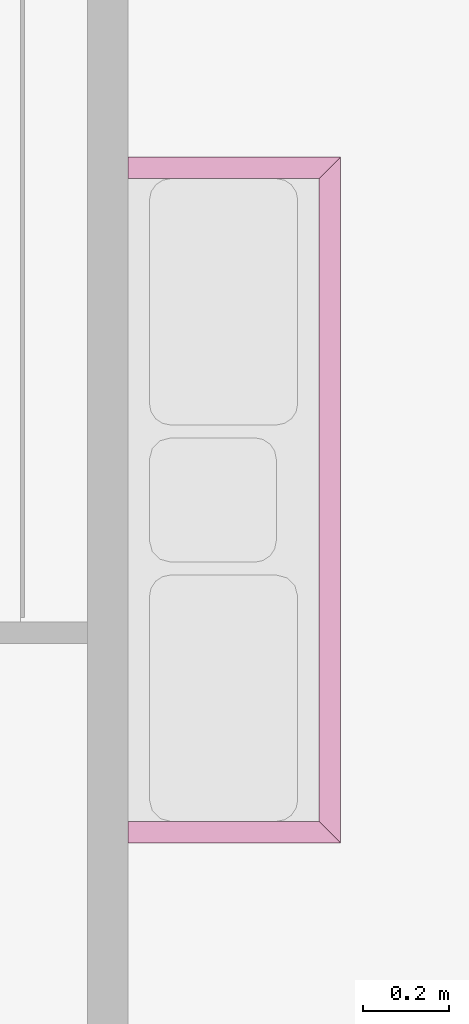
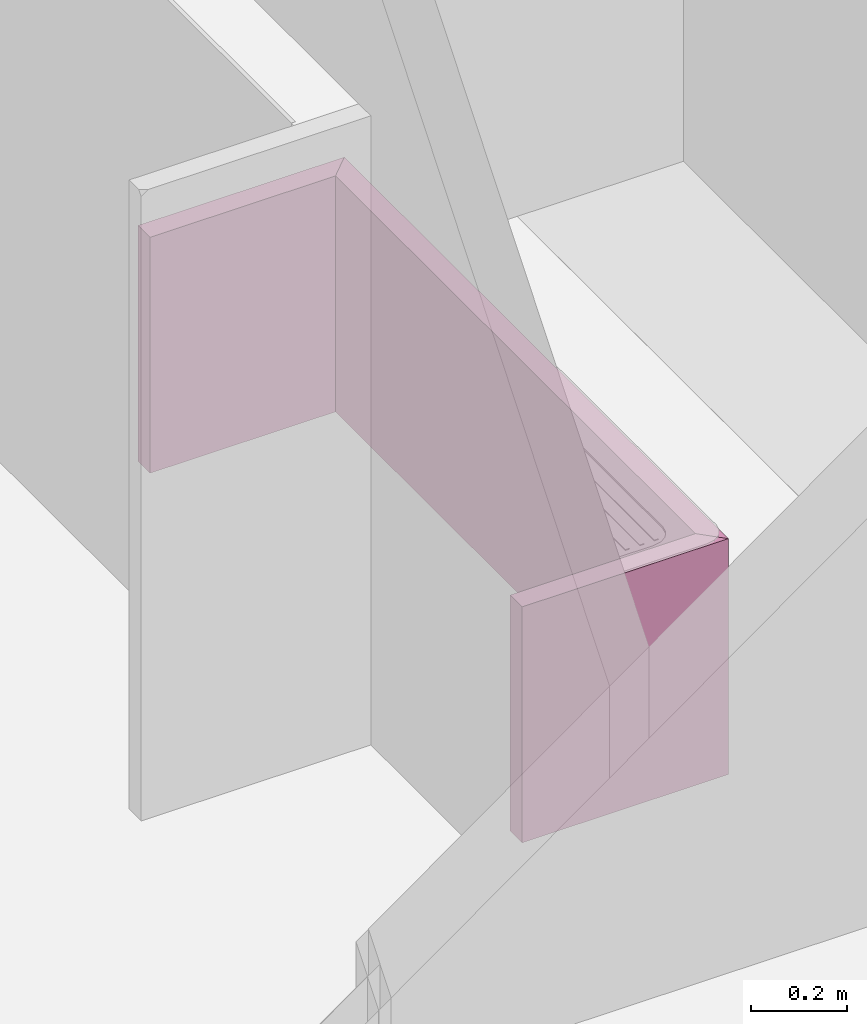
# One storey, part 8 of 14: 3 furnishings.
"""IFC2X3 building model written with IfcOpenShell, lengths in millimetres."""

from ifc_helpers import new_model, entity, si_unit, converted_unit, direction, frame, origin_with_axes, place, context, project, spatial, polyline, outline, extrude, material, type_object, element, save


model = new_model("IFC2X3")

# Units and contexts
model_context = context("Model", 3, precision=1e-05, world=origin_with_axes(), true_north=direction((0.0, 1.0)))
ifc_project = project(units=[si_unit("LENGTHUNIT", "METRE", prefix="MILLI"), si_unit("AREAUNIT", "SQUARE_METRE"), si_unit("VOLUMEUNIT", "CUBIC_METRE"), converted_unit("PLANEANGLEUNIT", "DEGREE", entity("IfcPlaneAngleMeasure", 0.017453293), si_unit("PLANEANGLEUNIT", "RADIAN"), dimensions=[0, 0, 0, 0, 0, 0, 0]), si_unit("SOLIDANGLEUNIT", "STERADIAN"), si_unit("MASSUNIT", "GRAM"), si_unit("TIMEUNIT", "SECOND"), si_unit("THERMODYNAMICTEMPERATUREUNIT", "DEGREE_CELSIUS"), si_unit("LUMINOUSINTENSITYUNIT", "LUMEN")], contexts=[model_context])

# Site, building, storey
site_placement = place(None, origin_with_axes())
site = spatial("IfcSite", under=ifc_project, at=site_placement, Name="\x83T\x83C\x83g", CompositionType="ELEMENT")
building_placement = place(site_placement, origin_with_axes())
building = spatial("IfcBuilding", under=site, at=building_placement, Name="Daitec-Sample 201208", CompositionType="ELEMENT")
storey_placement = place(building_placement, frame((0.0, 0.0, 4000.0), z_axis=(0.0, 0.0, 1.0), x_axis=(1.0, 0.0, 0.0)))
storey = spatial("IfcBuildingStorey", under=building, at=storey_placement, Name="2F", CompositionType="ELEMENT", Elevation=4000.0)

# Furnishings
ifc_material_1 = material()
furniture_type_1 = type_object("IfcFurnitureType", AssemblyPlace="NOTDEFINED")
furnishing_1_placement = place(storey_placement, frame((23667.276, 21024.447, 0.0), z_axis=(0.0, 0.0, 1.0), x_axis=(0.0, 1.0, 0.0)))
element("IfcFurnishingElement", 1, at=furnishing_1_placement, inside=storey, type_object=furniture_type_1, material=ifc_material_1, Name="W4", context=model_context, shape_type="SweptSolid", body=[
    extrude(outline(polyline([(0.0, 0.0), (1600.0, 0.0), (1550.0, 50.0), (50.0, 50.0), (0.0, 0.0)])), origin_with_axes(), (0.0, 0.0, 1.0), 600.0),
])
furnishing_2_placement = place(storey_placement, frame((23667.276, 21024.447, 0.0), z_axis=(0.0, 0.0, 1.0), x_axis=(-1.0, 0.0, 0.0)))
element("IfcFurnishingElement", 2, at=furnishing_2_placement, inside=storey, type_object=furniture_type_1, material=ifc_material_1, Name="W5", context=model_context, shape_type="SweptSolid", body=[
    extrude(outline(polyline([(50.0, -50.0), (496.05787, -50.0), (496.05787, 0.0), (0.0, 0.0), (50.0, -50.0)])), origin_with_axes(), (0.0, 0.0, 1.0), 600.0),
])
ifc_material_2 = material(Name="\x83R\x83\x93\x83N\x83\x8a\x81[\x83g-\x8cy\x97Ê")
furniture_type_2 = type_object("IfcFurnitureType", Name="\x83R\x83\x93\x83N\x83\x8a\x81[\x83g-\x8cy\x97Ê 50", AssemblyPlace="NOTDEFINED")
furnishing_3_placement = place(storey_placement, frame((23667.276, 22624.447, 0.0), z_axis=(0.0, 0.0, 1.0), x_axis=(-1.0, 0.0, 0.0)))
element("IfcFurnishingElement", 3, at=furnishing_3_placement, inside=storey, type_object=furniture_type_2, material=ifc_material_2, Name="W6", context=model_context, shape_type="SweptSolid", body=[
    extrude(outline(polyline([(0.0, 0.0), (496.05787, 0.0), (496.05787, 50.0), (50.0, 50.0), (0.0, 0.0)])), origin_with_axes(), (0.0, 0.0, 1.0), 600.0),
])

save(model, "model.ifc")
